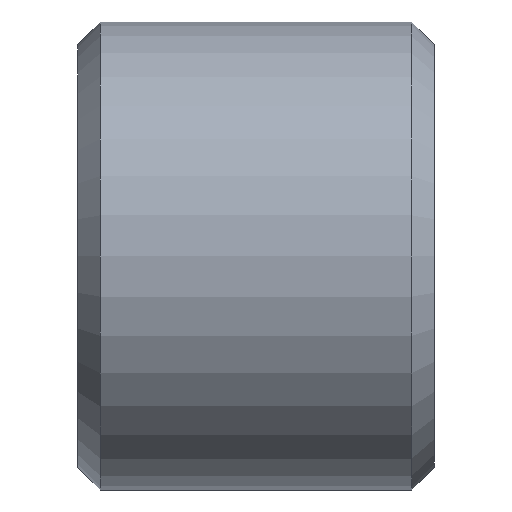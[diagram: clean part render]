
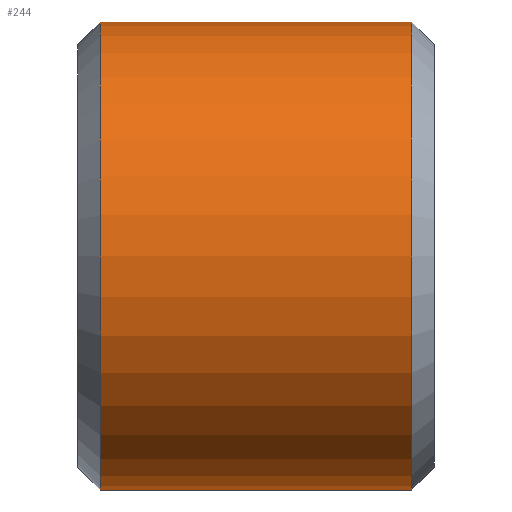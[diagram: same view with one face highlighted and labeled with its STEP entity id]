
A CAD part, left-side view. The second image highlights one B-rep face of the part: STEP entity #244.
In plain terms, the highlighted cylindrical face has radius 10.406 mm (diameter 20.813 mm), a full revolution.
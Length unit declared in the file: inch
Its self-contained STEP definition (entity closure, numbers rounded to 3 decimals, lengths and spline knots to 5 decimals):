
#16=CYLINDRICAL_SURFACE('',#274,0.4097);
#18=CIRCLE('',#272,0.4097);
#19=CIRCLE('',#273,0.4097);
#20=CIRCLE('',#275,0.4097);
#21=CIRCLE('',#276,0.4097);
#34=FACE_OUTER_BOUND('',#47,.T.);
#47=EDGE_LOOP('',(#193,#194,#195,#196,#197,#198));
#67=LINE('',#425,#83);
#83=VECTOR('',#321,0.42);
#117=VERTEX_POINT('',#418);
#118=VERTEX_POINT('',#420);
#119=VERTEX_POINT('',#424);
#120=VERTEX_POINT('',#426);
#149=EDGE_CURVE('',#117,#118,#18,.F.);
#150=EDGE_CURVE('',#118,#117,#19,.F.);
#151=EDGE_CURVE('',#118,#119,#67,.T.);
#152=EDGE_CURVE('',#120,#119,#20,.F.);
#153=EDGE_CURVE('',#119,#120,#21,.F.);
#193=ORIENTED_EDGE('',*,*,#150,.F.);
#194=ORIENTED_EDGE('',*,*,#151,.T.);
#195=ORIENTED_EDGE('',*,*,#152,.F.);
#196=ORIENTED_EDGE('',*,*,#153,.F.);
#197=ORIENTED_EDGE('',*,*,#151,.F.);
#198=ORIENTED_EDGE('',*,*,#149,.F.);
#244=ADVANCED_FACE('',(#34),#16,.T.);
#272=AXIS2_PLACEMENT_3D('',#421,#315,#316);
#273=AXIS2_PLACEMENT_3D('',#422,#317,#318);
#274=AXIS2_PLACEMENT_3D('',#423,#319,#320);
#275=AXIS2_PLACEMENT_3D('',#427,#322,#323);
#276=AXIS2_PLACEMENT_3D('',#428,#324,#325);
#315=DIRECTION('center_axis',(0.,1.,0.));
#316=DIRECTION('ref_axis',(0.,0.,-1.));
#317=DIRECTION('center_axis',(0.,1.,0.));
#318=DIRECTION('ref_axis',(0.,0.,-1.));
#319=DIRECTION('center_axis',(0.,-1.,0.));
#320=DIRECTION('ref_axis',(0.,0.,-1.));
#321=DIRECTION('',(0.,1.,0.));
#322=DIRECTION('center_axis',(0.,-1.,0.));
#323=DIRECTION('ref_axis',(0.,0.,-1.));
#324=DIRECTION('center_axis',(0.,-1.,0.));
#325=DIRECTION('ref_axis',(0.,0.,-1.));
#418=CARTESIAN_POINT('',(0.,0.0397,-0.4097));
#420=CARTESIAN_POINT('',(0.,0.0397,0.4097));
#421=CARTESIAN_POINT('Origin',(0.,0.0397,0.));
#422=CARTESIAN_POINT('Origin',(0.,0.0397,0.));
#423=CARTESIAN_POINT('Origin',(0.,0.3125,0.));
#424=CARTESIAN_POINT('',(0.,0.5853,0.4097));
#425=CARTESIAN_POINT('',(0.,0.3125,0.4097));
#426=CARTESIAN_POINT('',(0.,0.5853,-0.4097));
#427=CARTESIAN_POINT('Origin',(0.,0.5853,0.));
#428=CARTESIAN_POINT('Origin',(0.,0.5853,0.));
